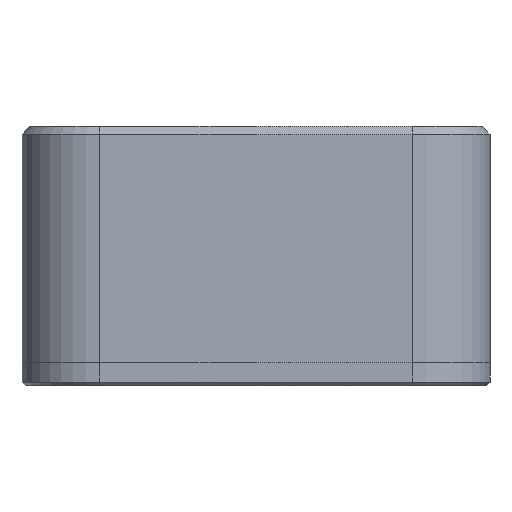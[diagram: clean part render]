
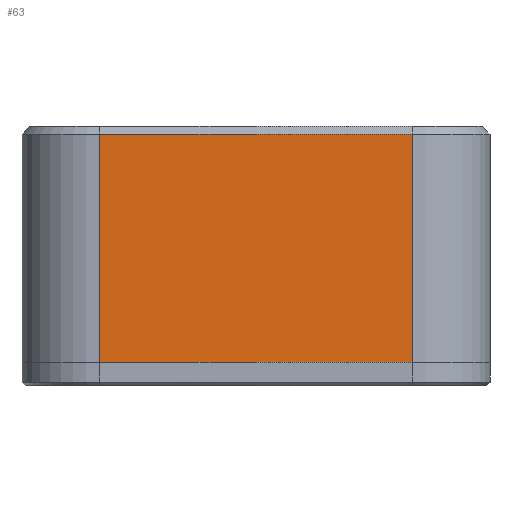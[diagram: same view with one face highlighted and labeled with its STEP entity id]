
A CAD part, left-side view. The second image highlights one B-rep face of the part: STEP entity #63.
In plain terms, the highlighted planar face has unit normal (-1, 0, 0).
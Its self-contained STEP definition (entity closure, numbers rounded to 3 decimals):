
#63 = ADVANCED_FACE('',(#64),#78,.F.);
#64 = FACE_BOUND('',#65,.F.);
#65 = EDGE_LOOP('',(#66,#101,#129,#157));
#66 = ORIENTED_EDGE('',*,*,#67,.F.);
#67 = EDGE_CURVE('',#68,#70,#72,.T.);
#68 = VERTEX_POINT('',#69);
#69 = CARTESIAN_POINT('',(-27.,-16.,2.4));
#70 = VERTEX_POINT('',#71);
#71 = CARTESIAN_POINT('',(-27.,-16.,25.8));
#72 = SURFACE_CURVE('',#73,(#77,#89),.PCURVE_S1.);
#73 = LINE('',#74,#75);
#74 = CARTESIAN_POINT('',(-27.,-16.,2.4));
#75 = VECTOR('',#76,1.);
#76 = DIRECTION('',(0.,0.,1.));
#77 = PCURVE('',#78,#83);
#78 = PLANE('',#79);
#79 = AXIS2_PLACEMENT_3D('',#80,#81,#82);
#80 = CARTESIAN_POINT('',(-27.,-24.,2.4));
#81 = DIRECTION('',(1.,0.,0.));
#82 = DIRECTION('',(0.,0.,1.));
#83 = DEFINITIONAL_REPRESENTATION('',(#84),#88);
#84 = LINE('',#85,#86);
#85 = CARTESIAN_POINT('',(0.,-8.));
#86 = VECTOR('',#87,1.);
#87 = DIRECTION('',(1.,0.));
#88 = ( GEOMETRIC_REPRESENTATION_CONTEXT(2) 
PARAMETRIC_REPRESENTATION_CONTEXT() REPRESENTATION_CONTEXT('2D SPACE',''
  ) );
#89 = PCURVE('',#90,#95);
#90 = CYLINDRICAL_SURFACE('',#91,8.);
#91 = AXIS2_PLACEMENT_3D('',#92,#93,#94);
#92 = CARTESIAN_POINT('',(-19.,-16.,2.4));
#93 = DIRECTION('',(0.,0.,1.));
#94 = DIRECTION('',(-1.,-0.,0.));
#95 = DEFINITIONAL_REPRESENTATION('',(#96),#100);
#96 = LINE('',#97,#98);
#97 = CARTESIAN_POINT('',(0.,0.));
#98 = VECTOR('',#99,1.);
#99 = DIRECTION('',(0.,1.));
#100 = ( GEOMETRIC_REPRESENTATION_CONTEXT(2) 
PARAMETRIC_REPRESENTATION_CONTEXT() REPRESENTATION_CONTEXT('2D SPACE',''
  ) );
#101 = ORIENTED_EDGE('',*,*,#102,.T.);
#102 = EDGE_CURVE('',#68,#103,#105,.T.);
#103 = VERTEX_POINT('',#104);
#104 = CARTESIAN_POINT('',(-27.,16.,2.4));
#105 = SURFACE_CURVE('',#106,(#110,#117),.PCURVE_S1.);
#106 = LINE('',#107,#108);
#107 = CARTESIAN_POINT('',(-27.,-24.,2.4));
#108 = VECTOR('',#109,1.);
#109 = DIRECTION('',(0.,1.,0.));
#110 = PCURVE('',#78,#111);
#111 = DEFINITIONAL_REPRESENTATION('',(#112),#116);
#112 = LINE('',#113,#114);
#113 = CARTESIAN_POINT('',(0.,0.));
#114 = VECTOR('',#115,1.);
#115 = DIRECTION('',(0.,-1.));
#116 = ( GEOMETRIC_REPRESENTATION_CONTEXT(2) 
PARAMETRIC_REPRESENTATION_CONTEXT() REPRESENTATION_CONTEXT('2D SPACE',''
  ) );
#117 = PCURVE('',#118,#123);
#118 = PLANE('',#119);
#119 = AXIS2_PLACEMENT_3D('',#120,#121,#122);
#120 = CARTESIAN_POINT('',(-27.,-24.,2.4));
#121 = DIRECTION('',(0.,0.,1.));
#122 = DIRECTION('',(1.,0.,0.));
#123 = DEFINITIONAL_REPRESENTATION('',(#124),#128);
#124 = LINE('',#125,#126);
#125 = CARTESIAN_POINT('',(0.,0.));
#126 = VECTOR('',#127,1.);
#127 = DIRECTION('',(0.,1.));
#128 = ( GEOMETRIC_REPRESENTATION_CONTEXT(2) 
PARAMETRIC_REPRESENTATION_CONTEXT() REPRESENTATION_CONTEXT('2D SPACE',''
  ) );
#129 = ORIENTED_EDGE('',*,*,#130,.T.);
#130 = EDGE_CURVE('',#103,#131,#133,.T.);
#131 = VERTEX_POINT('',#132);
#132 = CARTESIAN_POINT('',(-27.,16.,25.8));
#133 = SURFACE_CURVE('',#134,(#138,#145),.PCURVE_S1.);
#134 = LINE('',#135,#136);
#135 = CARTESIAN_POINT('',(-27.,16.,2.4));
#136 = VECTOR('',#137,1.);
#137 = DIRECTION('',(0.,0.,1.));
#138 = PCURVE('',#78,#139);
#139 = DEFINITIONAL_REPRESENTATION('',(#140),#144);
#140 = LINE('',#141,#142);
#141 = CARTESIAN_POINT('',(0.,-40.));
#142 = VECTOR('',#143,1.);
#143 = DIRECTION('',(1.,0.));
#144 = ( GEOMETRIC_REPRESENTATION_CONTEXT(2) 
PARAMETRIC_REPRESENTATION_CONTEXT() REPRESENTATION_CONTEXT('2D SPACE',''
  ) );
#145 = PCURVE('',#146,#151);
#146 = CYLINDRICAL_SURFACE('',#147,8.);
#147 = AXIS2_PLACEMENT_3D('',#148,#149,#150);
#148 = CARTESIAN_POINT('',(-19.,16.,2.4));
#149 = DIRECTION('',(0.,0.,1.));
#150 = DIRECTION('',(-1.,-0.,0.));
#151 = DEFINITIONAL_REPRESENTATION('',(#152),#156);
#152 = LINE('',#153,#154);
#153 = CARTESIAN_POINT('',(-0.,0.));
#154 = VECTOR('',#155,1.);
#155 = DIRECTION('',(-0.,1.));
#156 = ( GEOMETRIC_REPRESENTATION_CONTEXT(2) 
PARAMETRIC_REPRESENTATION_CONTEXT() REPRESENTATION_CONTEXT('2D SPACE',''
  ) );
#157 = ORIENTED_EDGE('',*,*,#158,.F.);
#158 = EDGE_CURVE('',#70,#131,#159,.T.);
#159 = SURFACE_CURVE('',#160,(#164,#171),.PCURVE_S1.);
#160 = LINE('',#161,#162);
#161 = CARTESIAN_POINT('',(-27.,-16.,25.8));
#162 = VECTOR('',#163,1.);
#163 = DIRECTION('',(0.,1.,0.));
#164 = PCURVE('',#78,#165);
#165 = DEFINITIONAL_REPRESENTATION('',(#166),#170);
#166 = LINE('',#167,#168);
#167 = CARTESIAN_POINT('',(23.4,-8.));
#168 = VECTOR('',#169,1.);
#169 = DIRECTION('',(0.,-1.));
#170 = ( GEOMETRIC_REPRESENTATION_CONTEXT(2) 
PARAMETRIC_REPRESENTATION_CONTEXT() REPRESENTATION_CONTEXT('2D SPACE',''
  ) );
#171 = PCURVE('',#172,#177);
#172 = PLANE('',#173);
#173 = AXIS2_PLACEMENT_3D('',#174,#175,#176);
#174 = CARTESIAN_POINT('',(-26.6,-16.,26.2));
#175 = DIRECTION('',(0.707,0.,-0.707)
  );
#176 = DIRECTION('',(0.,-1.,0.));
#177 = DEFINITIONAL_REPRESENTATION('',(#178),#182);
#178 = LINE('',#179,#180);
#179 = CARTESIAN_POINT('',(-0.,0.566));
#180 = VECTOR('',#181,1.);
#181 = DIRECTION('',(-1.,0.));
#182 = ( GEOMETRIC_REPRESENTATION_CONTEXT(2) 
PARAMETRIC_REPRESENTATION_CONTEXT() REPRESENTATION_CONTEXT('2D SPACE',''
  ) );
